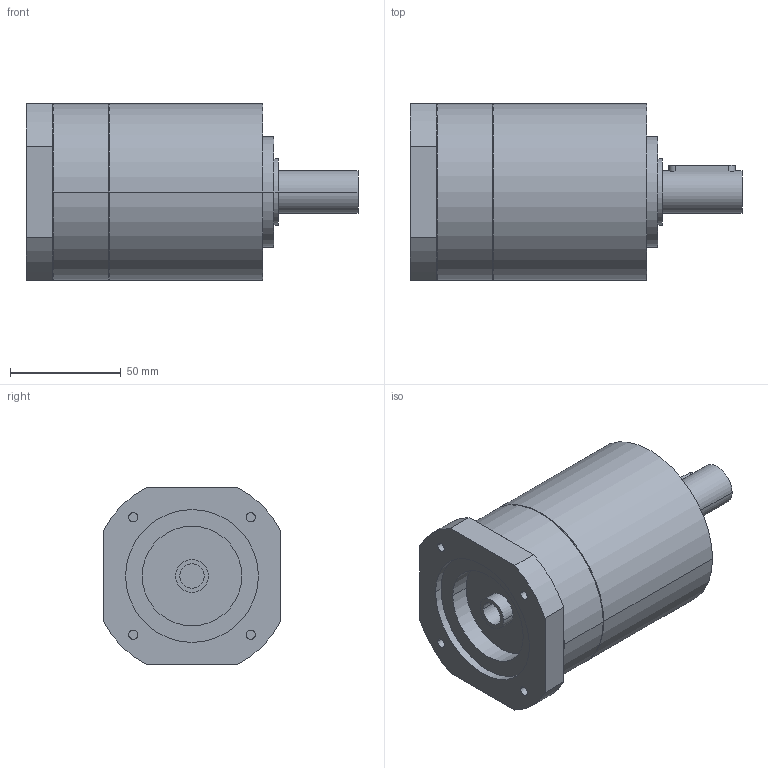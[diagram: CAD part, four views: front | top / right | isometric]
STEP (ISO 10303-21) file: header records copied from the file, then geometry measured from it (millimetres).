
FILE_DESCRIPTION(('CoCreate Modeling STEP Export'),'2;1');
FILE_NAME('GPR100_ig-3-4-5-6_19_B14_11_P23.stp','2014-08-26T10:01:53',(''),(''),'CoCreate Modeling STEP processor for AP214 (Solid Model)','CoCreate Modeling 16.00C 25-Feb-2009 (C) Parametric Technology GmbH','');
FILE_SCHEMA(('AUTOMOTIVE_DESIGN { 1 0 10303 214 1 1 1 1 }'));
Length unit declared in the file: millimetre
Products named in the file (2): GPR100_ig-3-4-5-6_19_B14_11_P23
Assembly tree (1 placements, depth 2):
  GPR100_ig-3-4-5-6_19_B14_11_P23
    GPR100_ig-3-4-5-6_19_B14_11_P23
Bounding box: 150 x 80 x 80 mm (x, y, z)
Volume: 541781.9 mm3; surface area: 47410.6 mm2
Topology: 1 solids, 1 shells, 74 faces, 187 edges, 131 vertices
Faces by surface type: cylinder 42, plane 26, cone 6
Entity records: 1943 total; most frequent: ORIENTED_EDGE 370, CARTESIAN_POINT 360, DIRECTION 264, EDGE_CURVE 185, VERTEX_POINT 131, AXIS2_PLACEMENT_3D 99, EDGE_LOOP 92, FACE_OUTER_BOUND 74
